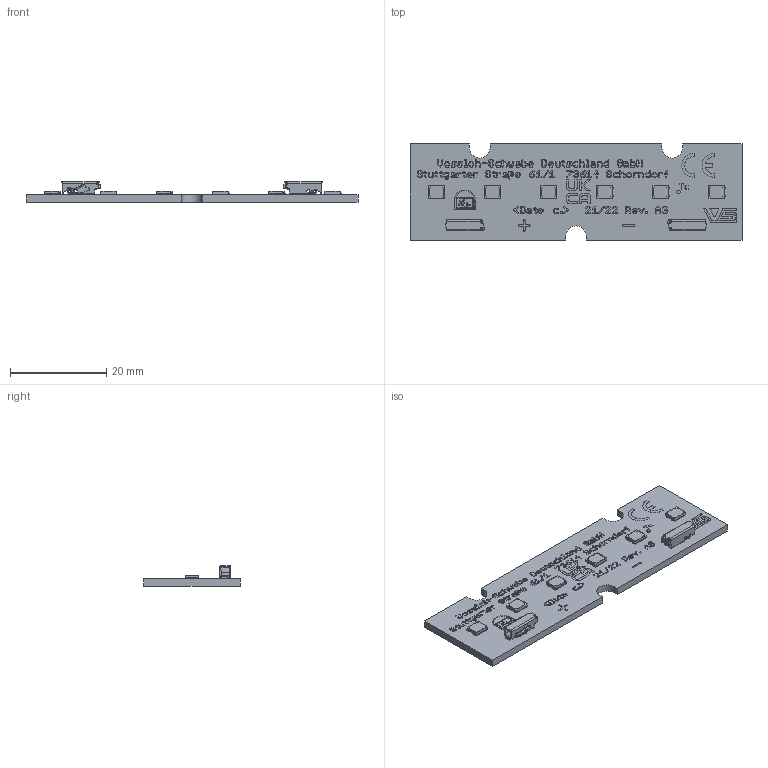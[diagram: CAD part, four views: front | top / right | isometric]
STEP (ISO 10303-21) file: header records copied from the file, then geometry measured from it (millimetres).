
FILE_DESCRIPTION(('Creo Elements/Direct Modeling STEP Export'),'2;1');
FILE_NAME('3D-Model_WU-M-730-STC.pkg.stp','2024-12-04T11:23:38',(''),(''),'PTC Creo Elements/Direct Modeling STEP processor for AP214 (Solid Model)','PTC Creo Elements/Direct Modeling 19.0E 27-Jun-2016 (C) Parametric Technology GmbH','');
FILE_SCHEMA(('AUTOMOTIVE_DESIGN { 1 0 10303 214 1 1 1 1 }'));
Length unit declared in the file: millimetre
Products named in the file (122): p1; 2065-101_998-403.prt; 2065-101_998-403.prt.1; Konektor_STC_Wago_2065-101_998-403.stp; ______STEP.ASM; _____-0_STEP.PRT; _____-0_STEP.PRT.1; 2835PCT_3D_MODEL_STEP.ASM; 2835PCT_3D_MODEL_ORIGIN_CORRECT.ASM; J_SERIES_2835.STEP; P1-220.PRT; ______STEP_ASM.ASM; 2835PCT_3D_MODEL_STEP_ASM.ASM; J_SERIES_2835_STEP.ASM; P1_15.PRT; P1_11.PRT; P1_14.PRT; P1_6.PRT; P1_13.PRT; P1_10.PRT; P1_12.PRT; P1_8.PRT; P1_9.PRT; P1_16.PRT; P1_7.PRT; P1_83.PRT; P1_87.PRT; P1_89.PRT; P1_85.PRT; P1_88.PRT; P1_84.PRT; P1_86.PRT; P1_82.PRT; P1_81.PRT; P1_91.PRT; P1_90.PRT; P1_27.PRT; P1_25.PRT; P1_24.PRT; P1_21.PRT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
Assembly tree (122 placements, depth 5):
  p1
  Konektor_STC_Wago_2065-101_998-403.stp
    2065-101_998-403.prt.1
    2065-101_998-403.prt
  J_SERIES_2835.STEP
    2835PCT_3D_MODEL_ORIGIN_CORRECT.ASM
      2835PCT_3D_MODEL_STEP.ASM
        _____-0_STEP.PRT.1  x3
        _____-0_STEP.PRT  x3
        ______STEP.ASM
  3D-MODEL_WU-M-730-TC_PKG.stp
    2060-451_998-404_STP.ASM
    3D-PLATE_WU-M-730.PRT
    3D-TEXT.ASM
      P1_31.PRT
      P1_29.PRT
      P1_32.PRT
      P1_33.PRT
      P1_34.PRT
      P1_37.PRT
      P1_35.PRT
      P1_30.PRT
      P1_36.PRT
      P1_28.PRT
      P1_38.PRT
      P1-429380.PRT
      P1_78.PRT
      P1_70.PRT
      P1_80.PRT
      P1_73.PRT
      P1_76.PRT
      P1_72.PRT
      P1_77.PRT
      P1_75.PRT
      P1_79.PRT
      P1_71.PRT
      P1_74.PRT
      P1_4.PRT
      P1_5.PRT
      P1_2.PRT
      P1_1.PRT
      P1_3.PRT
      P1_61.PRT
      P1_60.PRT
      P1_66.PRT
      P1_64.PRT
      P1_62.PRT
      P1_63.PRT
      P1_65.PRT
      P1_67.PRT
      P1_69.PRT
      P1_68.PRT
      P1_59.PRT
      P1_96.PRT
      P1_95.PRT
      P1_93.PRT
      P1_100.PRT
      P1_101.PRT
      P1_92.PRT
      P1_102.PRT
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Bounding box: 69 x 20 x 4.3 mm (x, y, z)
Volume: 2192.7 mm3; surface area: 3708.7 mm2
Topology: 106 solids, 136 shells, 3409 faces, 9307 edges, 6142 vertices
Faces by surface type: plane 2574, cylinder 835
Entity records: 113749 total; most frequent: CARTESIAN_POINT 15997, ORIENTED_EDGE 15598, DIRECTION 15179, EDGE_CURVE 7791, VECTOR 6255, LINE 6255, VERTEX_POINT 5170, AXIS2_PLACEMENT_3D 4462
